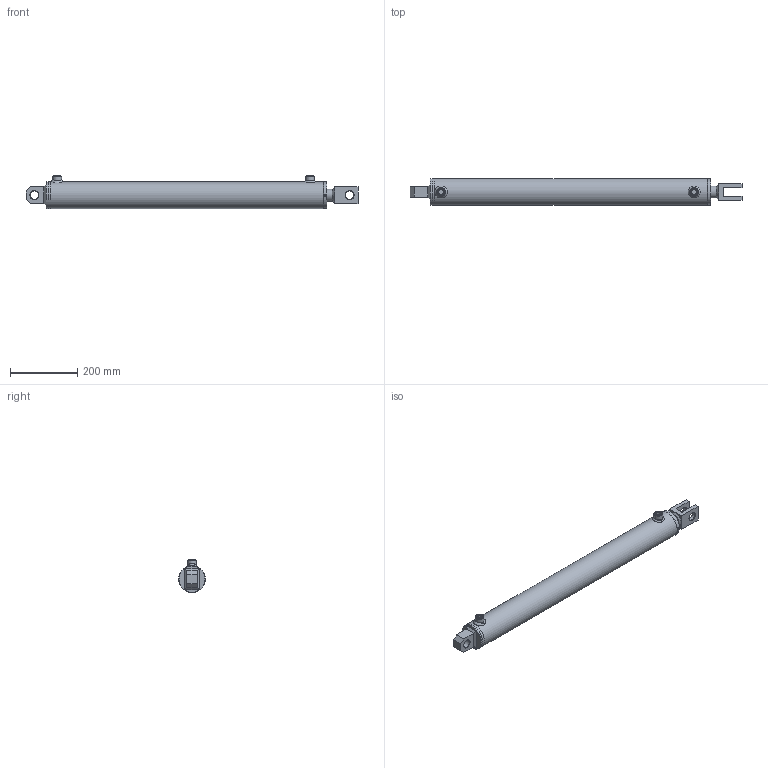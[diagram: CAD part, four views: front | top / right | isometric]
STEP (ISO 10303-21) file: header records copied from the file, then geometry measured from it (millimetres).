
FILE_DESCRIPTION( ( 'Unknown' ), '1' );
FILE_NAME( 'E:/LIBRERIA_3d/CILINDRI/HM5/HM54350700.stp', 'Unknown', ( 'Unknown' ), ( 'Unknown' ), 'PSStep 17.0.49', 'Unknown', ' ' );
FILE_SCHEMA( ( 'AUTOMOTIVE_DESIGN { 1 0 10303 214 1 1 1 1 }' ) );
Length unit declared in the file: millimetre
Products named in the file (28): STL4500700-oa7; Saldatura d'angolo 1-oa5; FTM4500800-oa6; CBSC220600; CT00070020; CG08007035; HM04350700; Saldatura con preparazione 1-oa3; Saldatura d'angolo 1-oa4; CF00070080; CBS0600000; APG0600000; CDA0002015; SBL3530700; Assem1; CFS0000025; COF2500000; Saldatura con preparazione 1-oa0; Saldatura d'angolo 1-oa1; Saldatura d'angolo 2-oa2
Assembly tree (20 placements, depth 4):
  Saldatura d'angolo 1-oa5
  Saldatura d'angolo 1-oa5
  Saldatura d'angolo 1-oa4
  Saldatura d'angolo 1-oa4
  Assem1
    CFS0000025
    COF2500000
    Saldatura con preparazione 1-oa0
    Saldatura con preparazione 1-oa0
    HM04350700
      Saldatura con preparazione 1-oa3
      Saldatura con preparazione 1-oa3
      CF00070080
      CBS0600000
      APG0600000  x2
      CDA0002015
      SBL3530700
      CG08007035
        CG08007035
      CT00070020
        CT00070020
      STL4500700-oa7
        FTM4500800-oa6
        CBSC220600
Bounding box: 990 x 80 x 99 mm (x, y, z)
Volume: 2260491.1 mm3; surface area: 621347.2 mm2
Topology: 24 solids, 24 shells, 260 faces, 549 edges, 344 vertices
Faces by surface type: plane 98, cylinder 66, cone 47, torus 37, bspline 12
Full cylindrical faces by diameter (mm): 4.25 x3, 5 x2, 6 x2, 7 x2, 14.95 x2, 16 x2, 16.6 x2, 19.4 x1, 20 x5, 22 x2, 24.5 x1, 25.25 x3, 26 x2, 30 x1, 35 x8, 37 x1, 38 x1, 43.6 x1, 45 x1, 50 x1, 64.18 x2, 65 x1, 68.34 x2, 69.9 x1, 70 x1, 70.3 x1, 70.5 x1, 70.6 x1, 71 x1, 72 x3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
Entity records: 11450 total; most frequent: CARTESIAN_POINT 4599, DIRECTION 1036, ORIENTED_EDGE 644, AXIS2_PLACEMENT_3D 464, EDGE_LOOP 454, FACE_OUTER_BOUND 357, EDGE_CURVE 322, VERTEX_POINT 283
